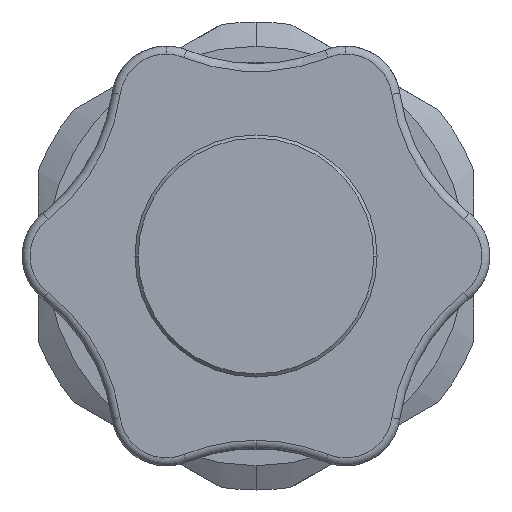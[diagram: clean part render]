
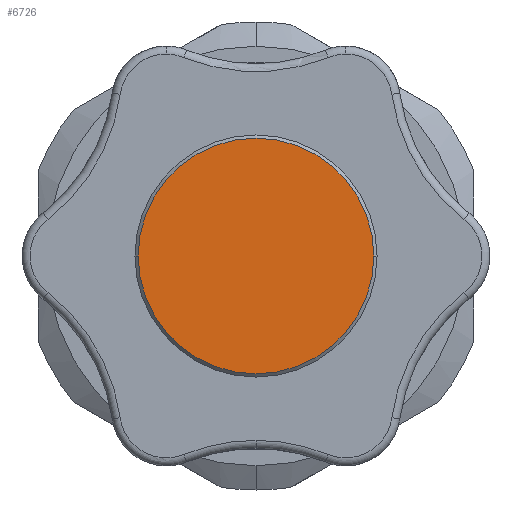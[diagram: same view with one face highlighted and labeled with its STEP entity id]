
A CAD part, left-side view. The second image highlights one B-rep face of the part: STEP entity #6726.
In plain terms, the highlighted planar face has unit normal (-1, 0, 0).
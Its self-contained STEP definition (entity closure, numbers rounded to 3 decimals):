
#571 = VERTEX_POINT ( 'NONE', #6321 ) ;
#687 = AXIS2_PLACEMENT_3D ( 'NONE', #5260, #2148, #5790 ) ;
#1332 = DIRECTION ( 'NONE',  ( -1., 0., 0. ) ) ;
#1535 = ORIENTED_EDGE ( 'NONE', *, *, #2632, .F. ) ;
#2148 = DIRECTION ( 'NONE',  ( 1., 0., 0. ) ) ;
#2339 = PLANE ( 'NONE',  #6490 ) ;
#2632 = EDGE_CURVE ( 'NONE', #571, #3659, #6159, .T. ) ;
#2970 = CARTESIAN_POINT ( 'NONE',  ( -48.7, 7.3, 0. ) ) ;
#3009 = FACE_OUTER_BOUND ( 'NONE', #3923, .T. ) ;
#3022 = CARTESIAN_POINT ( 'NONE',  ( -48.7, 0., 0. ) ) ;
#3550 = DIRECTION ( 'NONE',  ( 0., -1., 0. ) ) ;
#3659 = VERTEX_POINT ( 'NONE', #2970 ) ;
#3923 = EDGE_LOOP ( 'NONE', ( #1535, #5593 ) ) ;
#4454 = CARTESIAN_POINT ( 'NONE',  ( -48.7, 0., 0. ) ) ;
#4762 = EDGE_CURVE ( 'NONE', #3659, #571, #6017, .T. ) ;
#4987 = DIRECTION ( 'NONE',  ( 0., 1., 0. ) ) ;
#5260 = CARTESIAN_POINT ( 'NONE',  ( -48.7, 0., 0. ) ) ;
#5593 = ORIENTED_EDGE ( 'NONE', *, *, #4762, .F. ) ;
#5790 = DIRECTION ( 'NONE',  ( 0., -1., 0. ) ) ;
#6017 = CIRCLE ( 'NONE', #687, 7.3 ) ;
#6156 = AXIS2_PLACEMENT_3D ( 'NONE', #3022, #6680, #3550 ) ;
#6159 = CIRCLE ( 'NONE', #6156, 7.3 ) ;
#6321 = CARTESIAN_POINT ( 'NONE',  ( -48.7, -7.3, 0. ) ) ;
#6490 = AXIS2_PLACEMENT_3D ( 'NONE', #4454, #1332, #4987 ) ;
#6680 = DIRECTION ( 'NONE',  ( 1., 0., 0. ) ) ;
#6726 = ADVANCED_FACE ( 'NONE', ( #3009 ), #2339, .T. ) ;
